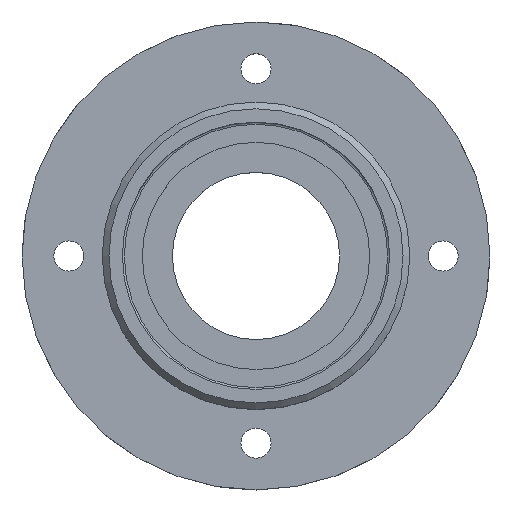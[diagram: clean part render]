
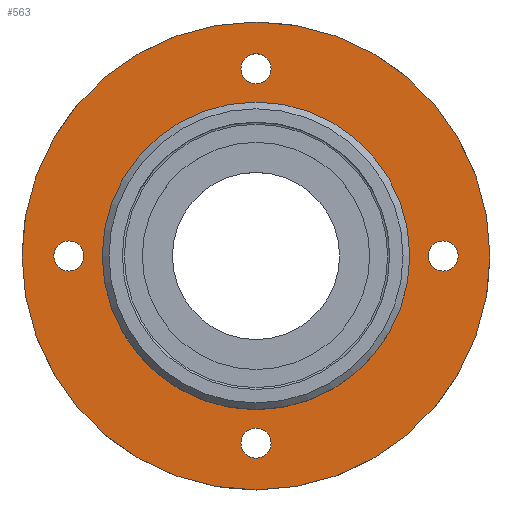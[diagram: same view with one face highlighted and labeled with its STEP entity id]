
A CAD part, top view. The second image highlights one B-rep face of the part: STEP entity #563.
In plain terms, the highlighted planar face has unit normal (0, 0, 1).
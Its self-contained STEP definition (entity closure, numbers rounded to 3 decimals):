
#24=FACE_BOUND('',#183,.T.);
#25=FACE_BOUND('',#184,.T.);
#26=FACE_BOUND('',#185,.T.);
#27=FACE_BOUND('',#186,.T.);
#28=FACE_BOUND('',#187,.T.);
#101=PLANE('',#675);
#137=FACE_OUTER_BOUND('',#182,.T.);
#182=EDGE_LOOP('',(#517));
#183=EDGE_LOOP('',(#518));
#184=EDGE_LOOP('',(#519));
#185=EDGE_LOOP('',(#520));
#186=EDGE_LOOP('',(#521));
#187=EDGE_LOOP('',(#522));
#206=CIRCLE('',#611,35.);
#215=CIRCLE('',#627,2.25);
#218=CIRCLE('',#633,2.25);
#221=CIRCLE('',#639,2.25);
#224=CIRCLE('',#645,2.25);
#230=CIRCLE('',#655,23.);
#254=VERTEX_POINT('',#911);
#265=VERTEX_POINT('',#1037);
#268=VERTEX_POINT('',#1048);
#271=VERTEX_POINT('',#1059);
#274=VERTEX_POINT('',#1070);
#280=VERTEX_POINT('',#1090);
#307=EDGE_CURVE('',#254,#254,#206,.T.);
#328=EDGE_CURVE('',#265,#265,#215,.T.);
#333=EDGE_CURVE('',#268,#268,#218,.T.);
#338=EDGE_CURVE('',#271,#271,#221,.T.);
#343=EDGE_CURVE('',#274,#274,#224,.T.);
#353=EDGE_CURVE('',#280,#280,#230,.T.);
#517=ORIENTED_EDGE('',*,*,#307,.F.);
#518=ORIENTED_EDGE('',*,*,#328,.T.);
#519=ORIENTED_EDGE('',*,*,#333,.T.);
#520=ORIENTED_EDGE('',*,*,#338,.T.);
#521=ORIENTED_EDGE('',*,*,#343,.T.);
#522=ORIENTED_EDGE('',*,*,#353,.T.);
#563=ADVANCED_FACE('',(#137,#24,#25,#26,#27,#28),#101,.F.);
#611=AXIS2_PLACEMENT_3D('',#912,#726,#727);
#627=AXIS2_PLACEMENT_3D('',#1039,#762,#763);
#633=AXIS2_PLACEMENT_3D('',#1050,#776,#777);
#639=AXIS2_PLACEMENT_3D('',#1061,#790,#791);
#645=AXIS2_PLACEMENT_3D('',#1072,#804,#805);
#655=AXIS2_PLACEMENT_3D('',#1092,#828,#829);
#675=AXIS2_PLACEMENT_3D('',#1123,#871,#872);
#726=DIRECTION('center_axis',(0.,0.,-1.));
#727=DIRECTION('ref_axis',(-1.,0.,0.));
#762=DIRECTION('center_axis',(0.,0.,-1.));
#763=DIRECTION('ref_axis',(0.,1.,0.));
#776=DIRECTION('center_axis',(0.,0.,-1.));
#777=DIRECTION('ref_axis',(1.,0.,0.));
#790=DIRECTION('center_axis',(0.,0.,-1.));
#791=DIRECTION('ref_axis',(0.,-1.,0.));
#804=DIRECTION('center_axis',(0.,0.,-1.));
#805=DIRECTION('ref_axis',(-1.,0.,0.));
#828=DIRECTION('center_axis',(0.,0.,-1.));
#829=DIRECTION('ref_axis',(-1.,0.,0.));
#871=DIRECTION('center_axis',(0.,0.,-1.));
#872=DIRECTION('ref_axis',(-1.,0.,0.));
#911=CARTESIAN_POINT('',(35.,0.,7.));
#912=CARTESIAN_POINT('Origin',(0.,0.,7.));
#1037=CARTESIAN_POINT('',(0.,25.75,7.));
#1039=CARTESIAN_POINT('Origin',(0.,28.,7.));
#1048=CARTESIAN_POINT('',(25.75,0.,7.));
#1050=CARTESIAN_POINT('Origin',(28.,0.,7.));
#1059=CARTESIAN_POINT('',(0.,-25.75,7.));
#1061=CARTESIAN_POINT('Origin',(0.,-28.,7.));
#1070=CARTESIAN_POINT('',(-25.75,0.,7.));
#1072=CARTESIAN_POINT('Origin',(-28.,0.,7.));
#1090=CARTESIAN_POINT('',(23.,0.,7.));
#1092=CARTESIAN_POINT('Origin',(0.,0.,7.));
#1123=CARTESIAN_POINT('Origin',(0.,0.,7.));
